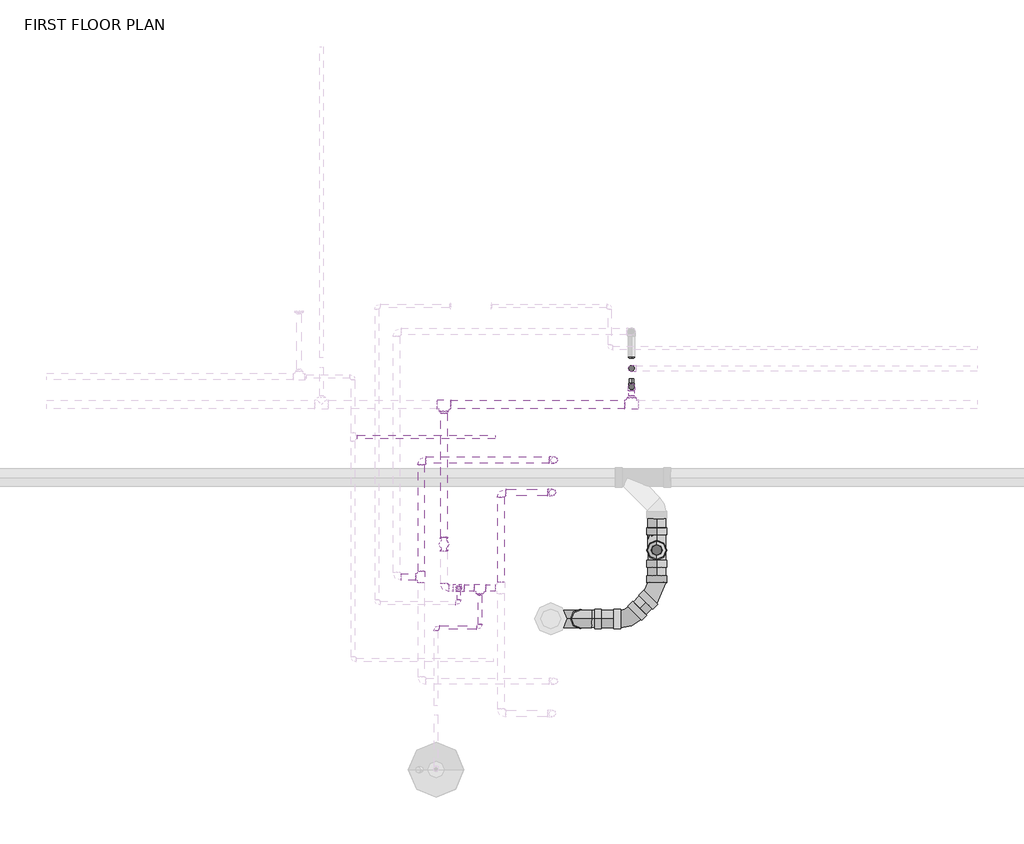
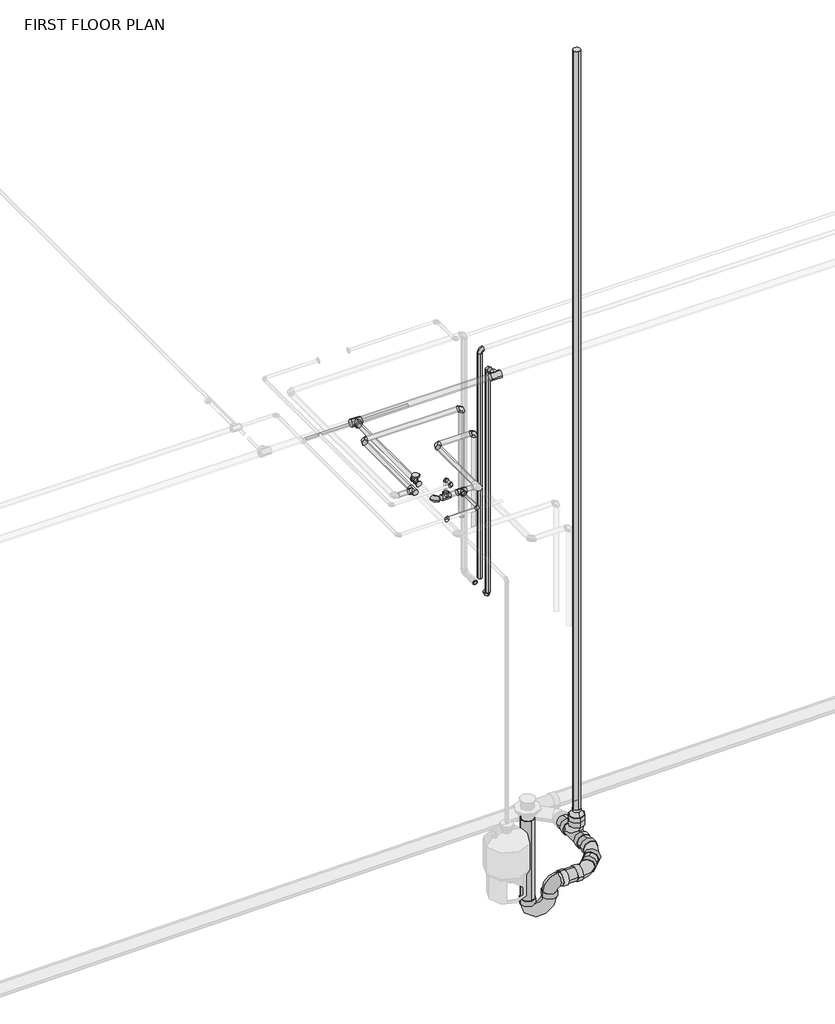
# One storey, part 4 of 9: 29 pipe fittings, 26 pipe segments, 1 valve.
"""IFC4 building model written with IfcOpenShell, lengths in millimetres."""

from ifc_helpers import new_model, si_unit, point, frame, frame_2d, origin, place, context, project, spatial, circle_curve, trimmed, segment, composite_curve, outline, extrude, transform, mapped, element, save
from ifc_brep_helpers import plane_surface, cylinder_surface, advanced_brep
from components import bend_pvc_sch_40_dwv_standard_17534dfd, bend_pvc_sch_40_dwv_standard_f8d707d2, pipe_elbow_copper_k_feaaf02c, pipe_elbow_copper_k_557be1fc, pipe_elbow_copper_k_a25a5501, pipe_elbow_copper_k_50f79be6, pipe_elbow_copper_k_aee2f062, pipe_elbow_copper_k_45e90dba, pipe_tee_copper_k_36278b8a, pipe_tee_copper_k_7127fd44, pipe_tee_copper_k_01efa584, pipe_transition_copper_k_d15df449, pipe_transition_copper_k_ab260ade, pipe_transition_copper_k_dc0697be, pipe_transition_copper_k_c08627ba, pipe_transition_copper_k_f0b34d0f, pipe_transition_copper_k_b05aebf9, pipe_transition_copper_k_af966018, reducer_pvc_sch_40_dwv_standard_49186a3e, standard_902986a4, tee_sanitary_pvc_sch_40_dwv_standard_0efe078d, valve_175674eb

model = new_model("IFC4")

# Units and contexts
model_context = context("Model", 3, world=origin())
ifc_project = project(units=[si_unit("LENGTHUNIT", "METRE", prefix="MILLI")], contexts=[model_context])

# Site, building, storey
site = spatial("IfcSite", under=ifc_project)
building = spatial("IfcBuilding", under=site)
storey = spatial("IfcBuildingStorey", under=building, Name="FIRST FLOOR PLAN", Elevation=0.0)

# Pipe fittings
placement = place(None, origin())
bend_pvc_sch_40_dwv_standard_shape = bend_pvc_sch_40_dwv_standard_17534dfd(model_context)
element("IfcPipeFitting", 1, ObjectType="Bend - PVC - Sch 40 - DWV : Standard", at=placement, inside=storey, context=model_context, shape_type="MappedRepresentation", body=[
    mapped(bend_pvc_sch_40_dwv_standard_shape, transform((-507.8003989, 4317.2683702, -829.7451851), x_axis=(-0.7070684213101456, -0.7070684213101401, 0.010416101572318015), y_axis=(0.7071451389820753, -0.7069917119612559, 0.010414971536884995), z_axis=(0.0, 0.014729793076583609, 0.9998915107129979))),
])
bend_pvc_sch_40_dwv_standard_2_shape = bend_pvc_sch_40_dwv_standard_f8d707d2(model_context)
element("IfcPipeFitting", 2, ObjectType="Bend - PVC - Sch 40 - DWV : Standard", at=placement, inside=storey, context=model_context, shape_type="MappedRepresentation", body=[
    mapped(bend_pvc_sch_40_dwv_standard_2_shape, transform((-329.1339965, 4495.9376807, -832.1563778), x_axis=(0.0, -0.9999132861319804, 0.013168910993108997), y_axis=(0.999998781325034, 2.055931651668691e-05, 0.0015610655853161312), z_axis=(-0.0015612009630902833, 0.013168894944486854, 0.9999120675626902))),
])
pipe_elbow_copper_k_shape = pipe_elbow_copper_k_feaaf02c(model_context)
element("IfcPipeFitting", 3, ObjectType="Pipe Elbow : Copper- K", at=placement, inside=storey, context=model_context, shape_type="MappedRepresentation", body=[
    mapped(pipe_elbow_copper_k_shape, transform((-1602.9878963, 4515.7105295, 3007.2210937), x_axis=(0.0, 0.0, 1.0), y_axis=(0.0, -1.0, 0.0), z_axis=(1.0, 0.0, 0.0))),
])
element("IfcPipeFitting", 4, ObjectType="Pipe Elbow : Copper- K", at=placement, inside=storey, context=model_context, shape_type="MappedRepresentation", body=[
    mapped(pipe_elbow_copper_k_shape, transform((-1602.9878963, 4419.3099803, 3007.2210938), x_axis=(1.0, 0.0, 0.0), y_axis=(0.0, 1.0, 0.0), z_axis=(0.0, 0.0, 1.0))),
])
element("IfcPipeFitting", 5, ObjectType="Pipe Elbow : Copper- K", at=placement, inside=storey, context=model_context, shape_type="MappedRepresentation", body=[
    mapped(pipe_elbow_copper_k_shape, transform((-1467.2772811, 4261.710529, 2847.578125), x_axis=(1.0, 0.0, 0.0), y_axis=(0.0, 1.0, 0.0), z_axis=(0.0, 0.0, 1.0))),
])
element("IfcPipeFitting", 6, ObjectType="Pipe Elbow : Copper- K", at=placement, inside=storey, context=model_context, shape_type="MappedRepresentation", body=[
    mapped(pipe_elbow_copper_k_shape, transform((-1749.0378963, 4261.710529, 2847.578125), x_axis=(-1.0, 0.0, 0.0), y_axis=(0.0, -1.0, 0.0), z_axis=(0.0, 0.0, 1.0))),
])
pipe_elbow_copper_k_2_shape = pipe_elbow_copper_k_557be1fc(model_context)
element("IfcPipeFitting", 7, ObjectType="Pipe Elbow : Copper- K", at=placement, inside=storey, context=model_context, shape_type="MappedRepresentation", body=[
    mapped(pipe_elbow_copper_k_2_shape, transform((-989.5398963, 5338.2774765, 2942.828125), x_axis=(0.0, 0.0, 1.0), y_axis=(-1.0, 0.0, 0.0), z_axis=(0.0, -1.0, 0.0))),
])
element("IfcPipeFitting", 8, ObjectType="Pipe Elbow : Copper- K", at=placement, inside=storey, context=model_context, shape_type="MappedRepresentation", body=[
    mapped(pipe_elbow_copper_k_2_shape, transform((-1331.5598228, 5130.2122305, 2847.5799344), x_axis=(-0.9999999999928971, 0.0, 3.769059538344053e-06), y_axis=(-1.0359240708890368e-10, -0.9999999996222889, -2.7484948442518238e-05), z_axis=(3.769059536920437e-06, -2.748494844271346e-05, 0.9999999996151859))),
])
element("IfcPipeFitting", 9, ObjectType="Pipe Elbow : Copper- K", at=placement, inside=storey, context=model_context, shape_type="MappedRepresentation", body=[
    mapped(pipe_elbow_copper_k_2_shape, transform((-1698.2378963, 4515.7105293, 2847.5491238), x_axis=(0.0, -0.9999999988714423, -4.750910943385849e-05), y_axis=(0.9999999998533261, -8.137078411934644e-10, 1.712740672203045e-05), z_axis=(-1.7127406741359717e-05, -4.750910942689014e-05, 0.9999999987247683))),
])
element("IfcPipeFitting", 10, ObjectType="Pipe Elbow : Copper- K", at=placement, inside=storey, context=model_context, shape_type="MappedRepresentation", body=[
    mapped(pipe_elbow_copper_k_2_shape, transform((-1844.2878963, 5338.2774765, 2942.828125), x_axis=(-1.0, 0.0, 0.0), y_axis=(0.0, -1.0, 0.0), z_axis=(0.0, 0.0, 1.0))),
])
pipe_elbow_copper_k_3_shape = pipe_elbow_copper_k_a25a5501(model_context)
element("IfcPipeFitting", 11, ObjectType="Pipe Elbow : Copper- K", at=placement, inside=storey, context=model_context, shape_type="MappedRepresentation", body=[
    mapped(pipe_elbow_copper_k_3_shape, transform((-491.4064749, 5810.9005555, 772.1506258), x_axis=(0.0, -1.0, 0.0), y_axis=(0.0, 0.0, 1.0), z_axis=(-1.0, 0.0, 0.0))),
])
pipe_elbow_copper_k_4_shape = pipe_elbow_copper_k_50f79be6(model_context)
element("IfcPipeFitting", 12, ObjectType="Pipe Elbow : Copper- K", at=placement, inside=storey, context=model_context, shape_type="MappedRepresentation", body=[
    mapped(pipe_elbow_copper_k_4_shape, transform((-1001.3598228, 5130.2122306, 2847.5785183), x_axis=(0.0, 0.0, 1.0), y_axis=(-1.0, 0.0, 0.0), z_axis=(0.0, -1.0, 0.0))),
])
pipe_elbow_copper_k_5_shape = pipe_elbow_copper_k_aee2f062(model_context)
element("IfcPipeFitting", 13, ObjectType="Pipe Elbow : Copper- K", at=placement, inside=storey, context=model_context, shape_type="MappedRepresentation", body=[
    mapped(pipe_elbow_copper_k_5_shape, transform((-491.4064749, 5928.9468422, 2942.828125), x_axis=(0.0, 0.0, 1.0), y_axis=(1.0, 0.0, 0.0), z_axis=(0.0, 1.0, 0.0))),
])
pipe_elbow_copper_k_6_shape = pipe_elbow_copper_k_45e90dba(model_context)
element("IfcPipeFitting", 14, ObjectType="Pipe Elbow : Copper- K", at=placement, inside=storey, context=model_context, shape_type="MappedRepresentation", body=[
    mapped(pipe_elbow_copper_k_6_shape, transform((-491.4064749, 5810.9005555, 2847.5990566), x_axis=(0.0, 0.0, 1.0), y_axis=(0.0, -1.0, 0.0), z_axis=(1.0, 0.0, 0.0))),
])
pipe_tee_copper_k_shape = pipe_tee_copper_k_36278b8a(model_context)
element("IfcPipeFitting", 15, ObjectType="Pipe Tee : Copper- K", at=placement, inside=storey, context=model_context, shape_type="MappedRepresentation", body=[
    mapped(pipe_tee_copper_k_shape, transform((-491.4064749, 5696.5205406, 2847.5440079), x_axis=(1.0, 0.0, 0.0), y_axis=(0.0, -0.9999999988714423, -4.7509109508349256e-05), z_axis=(0.0, 4.7509109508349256e-05, -0.9999999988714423))),
])
element("IfcPipeFitting", 16, ObjectType="Pipe Tee : Copper- K", at=placement, inside=storey, context=model_context, shape_type="MappedRepresentation", body=[
    mapped(pipe_tee_copper_k_shape, transform((-1698.2378963, 5696.5205406, 2847.5440079), x_axis=(1.0, 0.0, 0.0), y_axis=(0.0, 0.9999999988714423, 4.7509109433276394e-05), z_axis=(0.0, -4.7509109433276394e-05, 0.9999999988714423))),
])
pipe_tee_copper_k_2_shape = pipe_tee_copper_k_7127fd44(model_context)
element("IfcPipeFitting", 17, ObjectType="Pipe Tee : Copper- K", at=placement, inside=storey, context=model_context, shape_type="MappedRepresentation", body=[
    mapped(pipe_tee_copper_k_2_shape, transform((-1844.2878963, 4586.9377286, 2942.828125), x_axis=(0.0, 1.0, 0.0), y_axis=(1.0, 0.0, 0.0), z_axis=(0.0, 0.0, -1.0))),
])
element("IfcPipeFitting", 18, ObjectType="Pipe Tee : Copper- K", at=placement, inside=storey, context=model_context, shape_type="MappedRepresentation", body=[
    mapped(pipe_tee_copper_k_2_shape, transform((-1467.2772811, 4515.7105286, 2847.5705339), x_axis=(-0.9999999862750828, 0.0, -0.0001656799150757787), y_axis=(0.0, 1.0, 0.0), z_axis=(0.0001656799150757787, 0.0, -0.9999999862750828))),
])
pipe_tee_copper_k_3_shape = pipe_tee_copper_k_01efa584(model_context)
element("IfcPipeFitting", 19, ObjectType="Pipe Tee : Copper- K", at=placement, inside=storey, context=model_context, shape_type="MappedRepresentation", body=[
    mapped(pipe_tee_copper_k_3_shape, transform((-1602.9878963, 4515.7105295, 2847.5523692), x_axis=(0.9999999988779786, 0.0, 4.737132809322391e-05), y_axis=(4.737132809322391e-05, 0.0, -0.9999999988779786), z_axis=(0.0, 1.0, 0.0))),
])
pipe_transition_copper_k_shape = pipe_transition_copper_k_d15df449(model_context)
element("IfcPipeFitting", 20, ObjectType="Pipe Transition : Copper- K", at=placement, inside=storey, context=model_context, shape_type="MappedRepresentation", body=[
    mapped(pipe_transition_copper_k_shape, transform((-1602.9878963, 4515.7105295, 2884.0648692), x_axis=(0.0, 0.0, 1.0), y_axis=(1.0, 0.0, 0.0), z_axis=(0.0, 1.0, 0.0))),
])
pipe_transition_copper_k_2_shape = pipe_transition_copper_k_ab260ade(model_context)
element("IfcPipeFitting", 21, ObjectType="Pipe Transition : Copper- K", at=placement, inside=storey, context=model_context, shape_type="MappedRepresentation", body=[
    mapped(pipe_transition_copper_k_2_shape, transform((-1698.2378963, 5653.6580406, 2847.5419715), x_axis=(0.0, -0.9999999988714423, -4.7509109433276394e-05), y_axis=(1.0, 0.0, 0.0), z_axis=(0.0, -4.7509109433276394e-05, 0.9999999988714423))),
])
pipe_transition_copper_k_3_shape = pipe_transition_copper_k_dc0697be(model_context)
element("IfcPipeFitting", 22, ObjectType="Pipe Transition : Copper- K", at=placement, inside=storey, context=model_context, shape_type="MappedRepresentation", body=[
    mapped(pipe_transition_copper_k_3_shape, transform((-491.4064749, 5739.3830405, 2847.5460443), x_axis=(0.0, 0.9999999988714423, 4.7509109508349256e-05), y_axis=(-1.0, 0.0, 0.0), z_axis=(0.0, -4.7509109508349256e-05, 0.9999999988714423))),
])
pipe_transition_copper_k_4_shape = pipe_transition_copper_k_c08627ba(model_context)
element("IfcPipeFitting", 23, ObjectType="Pipe Transition : Copper- K", at=placement, inside=storey, context=model_context, shape_type="MappedRepresentation", body=[
    mapped(pipe_transition_copper_k_4_shape, transform((-491.4064749, 5810.9005555, 795.9631258), x_axis=(0.0, 0.0, 1.0), y_axis=(1.0, 0.0, 0.0), z_axis=(0.0, 1.0, 0.0))),
])
pipe_transition_copper_k_5_shape = pipe_transition_copper_k_f0b34d0f(model_context)
element("IfcPipeFitting", 24, ObjectType="Pipe Transition : Copper- K", at=placement, inside=storey, context=model_context, shape_type="MappedRepresentation", body=[
    mapped(pipe_transition_copper_k_5_shape, transform((-491.4064749, 5928.9468422, 855.8182258), x_axis=(0.0, 0.0, 1.0), y_axis=(-1.0, 0.0, 0.0), z_axis=(0.0, -1.0, 0.0))),
])
pipe_transition_copper_k_6_shape = pipe_transition_copper_k_b05aebf9(model_context)
element("IfcPipeFitting", 25, ObjectType="Pipe Transition : Copper- K", at=placement, inside=storey, context=model_context, shape_type="MappedRepresentation", body=[
    mapped(pipe_transition_copper_k_6_shape, transform((-1467.2772811, 4479.1980286, 2847.5705339), x_axis=(0.0, -1.0, 0.0), y_axis=(0.9999999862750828, 0.0, 0.00016567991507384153), z_axis=(-0.00016567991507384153, 0.0, 0.9999999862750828))),
])
pipe_transition_copper_k_7_shape = pipe_transition_copper_k_af966018(model_context)
element("IfcPipeFitting", 26, ObjectType="Pipe Transition : Copper- K", at=placement, inside=storey, context=model_context, shape_type="MappedRepresentation", body=[
    mapped(pipe_transition_copper_k_7_shape, transform((-491.4064749, 5994.6058422, 772.1506258), x_axis=(0.0, 1.0, 0.0), y_axis=(-1.0, 0.0, 0.0), z_axis=(0.0, 0.0, 1.0))),
])
reducer_pvc_sch_40_dwv_standard_shape = reducer_pvc_sch_40_dwv_standard_49186a3e(model_context)
element("IfcPipeFitting", 27, ObjectType="Reducer - PVC - Sch 40 - DWV : Standard", at=placement, inside=storey, context=model_context, shape_type="MappedRepresentation", body=[
    mapped(reducer_pvc_sch_40_dwv_standard_shape, transform((-329.1339965, 4759.9014199, -692.6982894), x_axis=(0.0, 0.0, 1.0), y_axis=(0.0, 1.0, 0.0), z_axis=(-1.0, 0.0, 0.0))),
])
standard_shape = standard_902986a4(model_context)
element("IfcPipeFitting", 28, ObjectType="GES P TRAP PVC Sch 40 - DWV : Standard", at=placement, inside=storey, context=model_context, shape_type="MappedRepresentation", body=[
    mapped(standard_shape, transform((-1010.3942675, 4317.2683702, -829.7451851), x_axis=(0.0, 0.0, -1.0), y_axis=(-1.0, 0.0, 0.0), z_axis=(0.0, 1.0, 0.0))),
])
tee_sanitary_pvc_sch_40_dwv_standard_shape = tee_sanitary_pvc_sch_40_dwv_standard_0efe078d(model_context)
element("IfcPipeFitting", 29, ObjectType="Tee Sanitary - PVC - Sch 40 - DWV : Standard", at=placement, inside=storey, context=model_context, shape_type="MappedRepresentation", body=[
    mapped(tee_sanitary_pvc_sch_40_dwv_standard_shape, transform((-329.1339965, 4759.9014199, -835.5732894), x_axis=(0.0, -0.9999202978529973, 0.012625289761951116), y_axis=(0.0, 0.012625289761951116, 0.9999202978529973), z_axis=(-1.0, 0.0, 0.0))),
])

# Pipe segments
element("IfcPipeSegment", 30, ObjectType="Cast Iron - VENT", at=placement, inside=storey, context=model_context, shape_type="SweptSolid", body=[
    extrude(outline(composite_curve([segment(trimmed(circle_curve(frame_2d((0.0, 30.1625)), 30.1625), [point((-30.1625, 30.1625))], [point((0.0, 60.325))], False, "CARTESIAN"), True, "CONTINUOUS"), segment(trimmed(circle_curve(frame_2d((0.0, 30.1625)), 30.1625), [point((0.0, 60.325))], [point((30.1625, 30.1625))], False, "CARTESIAN"), True, "CONTINUOUS"), segment(trimmed(circle_curve(frame_2d((0.0, 30.1625)), 30.1625), [point((30.1625, 30.1625))], [point((0.0, 0.0))], False, "CARTESIAN"), True, "CONTINUOUS"), segment(trimmed(circle_curve(frame_2d((0.0, 30.1625)), 30.1625), [point((0.0, 0.0))], [point((-30.1625, 30.1625))], False, "CARTESIAN"), True, "CONTINUOUS")], self_intersect=False)), frame((-329.1339965, 4729.7389199, -594.2733702), z_axis=(-6.942765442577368e-07, -2.6780659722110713e-06, 0.999999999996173), x_axis=(0.999999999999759, -1.8598456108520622e-12, 6.942765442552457e-07)), (0.0, 0.0, 1.0), 6929.0194654),
])
element("IfcPipeSegment", 31, ObjectType="Copper", at=placement, inside=storey, context=model_context, shape_type="SweptSolid", body=[
    extrude(outline(composite_curve([segment(trimmed(circle_curve(frame_2d((-989.5398963, 5338.2774765)), 20.6375), [point((-1010.1773963, 5338.2774765))], [point((-989.5398963, 5358.9149765))], False, "CARTESIAN"), True, "CONTINUOUS"), segment(trimmed(circle_curve(frame_2d((-989.5398963, 5338.2774765)), 20.6375), [point((-989.5398963, 5358.9149765))], [point((-968.9023963, 5338.2774765))], False, "CARTESIAN"), True, "CONTINUOUS"), segment(trimmed(circle_curve(frame_2d((-989.5398963, 5338.2774765)), 20.6375), [point((-968.9023963, 5338.2774765))], [point((-989.5398963, 5317.6399765))], False, "CARTESIAN"), True, "CONTINUOUS"), segment(trimmed(circle_curve(frame_2d((-989.5398963, 5338.2774765)), 20.6375), [point((-989.5398963, 5317.6399765))], [point((-1010.1773963, 5338.2774765))], False, "CARTESIAN"), True, "CONTINUOUS")], self_intersect=False)), frame((0.0, 0.0, 1952.228125), z_axis=(0.0, 0.0, 1.0), x_axis=(1.0, 0.0, 0.0)), (0.0, 0.0, 1.0), 960.4375),
])
element("IfcPipeSegment", 32, ObjectType="Copper", at=placement, inside=storey, context=model_context, shape_type="SweptSolid", body=[
    extrude(outline(composite_curve([segment(trimmed(circle_curve(frame_2d((5338.2774765, 2942.828125)), 20.6375), [point((5358.9149765, 2942.828125))], [point((5338.2774765, 2922.190625))], False, "CARTESIAN"), True, "CONTINUOUS"), segment(trimmed(circle_curve(frame_2d((5338.2774765, 2942.828125)), 20.6375), [point((5338.2774765, 2922.190625))], [point((5317.6399765, 2942.828125))], False, "CARTESIAN"), True, "CONTINUOUS"), segment(trimmed(circle_curve(frame_2d((5338.2774765, 2942.828125)), 20.6375), [point((5317.6399765, 2942.828125))], [point((5338.2774765, 2963.465625))], False, "CARTESIAN"), True, "CONTINUOUS"), segment(trimmed(circle_curve(frame_2d((5338.2774765, 2942.828125)), 20.6375), [point((5338.2774765, 2963.465625))], [point((5358.9149765, 2942.828125))], False, "CARTESIAN"), True, "CONTINUOUS")], self_intersect=False)), frame((-1814.1253963, 0.0, 0.0), z_axis=(1.0, 0.0, 0.0), x_axis=(0.0, 1.0, 0.0)), (0.0, 0.0, 1.0), 794.423),
])
element("IfcPipeSegment", 33, ObjectType="Copper", at=placement, inside=storey, context=model_context, shape_type="SweptSolid", body=[
    extrude(outline(composite_curve([segment(trimmed(circle_curve(frame_2d((5130.2122306, 2847.5788036)), 20.6375), [point((5150.8497305, 2847.5788036))], [point((5130.2122305, 2826.9413036))], False, "CARTESIAN"), True, "CONTINUOUS"), segment(trimmed(circle_curve(frame_2d((5130.2122306, 2847.5788036)), 20.6375), [point((5130.2122305, 2826.9413036))], [point((5109.5747305, 2847.5788036))], False, "CARTESIAN"), True, "CONTINUOUS"), segment(trimmed(circle_curve(frame_2d((5130.2122306, 2847.5788036)), 20.6375), [point((5109.5747305, 2847.5788036))], [point((5130.2122305, 2868.2163036))], False, "CARTESIAN"), True, "CONTINUOUS"), segment(trimmed(circle_curve(frame_2d((5130.2122306, 2847.5788036)), 20.6375), [point((5130.2122305, 2868.2163036))], [point((5150.8497305, 2847.5788036))], False, "CARTESIAN"), True, "CONTINUOUS")], self_intersect=False)), frame((-1301.3973228, 0.0, 0.0), z_axis=(1.0, 0.0, 0.0), x_axis=(0.0, 1.0, 0.0)), (0.0, 0.0, 1.0), 269.8752853),
])
element("IfcPipeSegment", 34, ObjectType="Copper", at=placement, inside=storey, context=model_context, shape_type="SweptSolid", body=[
    extrude(outline(composite_curve([segment(trimmed(circle_curve(frame_2d((-1001.3598228, 5130.2122306)), 20.6375), [point((-980.7223228, 5130.2122306))], [point((-1001.3598228, 5109.5747306))], False, "CARTESIAN"), True, "CONTINUOUS"), segment(trimmed(circle_curve(frame_2d((-1001.3598228, 5130.2122306)), 20.6375), [point((-1001.3598228, 5109.5747306))], [point((-1021.9973228, 5130.2122306))], False, "CARTESIAN"), True, "CONTINUOUS"), segment(trimmed(circle_curve(frame_2d((-1001.3598228, 5130.2122306)), 20.6375), [point((-1021.9973228, 5130.2122306))], [point((-1001.3598228, 5150.8497306))], False, "CARTESIAN"), True, "CONTINUOUS"), segment(trimmed(circle_curve(frame_2d((-1001.3598228, 5130.2122306)), 20.6375), [point((-1001.3598228, 5150.8497306))], [point((-980.7223228, 5130.2122306))], False, "CARTESIAN"), True, "CONTINUOUS")], self_intersect=False)), frame((0.0, 0.0, 1952.228125), z_axis=(0.0, 0.0, 1.0), x_axis=(1.0, 0.0, 0.0)), (0.0, 0.0, 1.0), 865.1881786),
])
element("IfcPipeSegment", 35, ObjectType="Copper", at=placement, inside=storey, context=model_context, shape_type="SweptSolid", body=[
    extrude(outline(composite_curve([segment(trimmed(circle_curve(frame_2d((2847.5963, -491.4064749)), 17.4625), [point((2847.5963, -473.9439749))], [point((2865.0588, -491.4064749))], False, "CARTESIAN"), True, "CONTINUOUS"), segment(trimmed(circle_curve(frame_2d((2847.5963, -491.4064749)), 17.4625), [point((2865.0588, -491.4064749))], [point((2847.5963, -508.8689749))], False, "CARTESIAN"), True, "CONTINUOUS"), segment(trimmed(circle_curve(frame_2d((2847.5963, -491.4064749)), 17.4625), [point((2847.5963, -508.8689749))], [point((2830.1338, -491.4064749))], False, "CARTESIAN"), True, "CONTINUOUS"), segment(trimmed(circle_curve(frame_2d((2847.5963, -491.4064749)), 17.4625), [point((2830.1338, -491.4064749))], [point((2847.5963, -473.9439749))], False, "CARTESIAN"), True, "CONTINUOUS")], self_intersect=False)), frame((0.0, 5752.8767882, 0.0), z_axis=(0.0, 1.0, 0.0), x_axis=(0.0, 0.0, 1.0)), (0.0, 0.0, 1.0), 31.0349852),
])
element("IfcPipeSegment", 36, ObjectType="Copper", at=placement, inside=storey, context=model_context, shape_type="SweptSolid", body=[
    extrude(outline(composite_curve([segment(trimmed(circle_curve(frame_2d((5488.2979913, 3007.8164062)), 11.1125), [point((5477.1854913, 3007.8164062))], [point((5488.2979913, 3018.9289062))], False, "CARTESIAN"), True, "CONTINUOUS"), segment(trimmed(circle_curve(frame_2d((5488.2979913, 3007.8164062)), 11.1125), [point((5488.2979913, 3018.9289062))], [point((5499.4104913, 3007.8164062))], False, "CARTESIAN"), True, "CONTINUOUS"), segment(trimmed(circle_curve(frame_2d((5488.2979913, 3007.8164062)), 11.1125), [point((5499.4104913, 3007.8164062))], [point((5488.2979913, 2996.7039062))], False, "CARTESIAN"), True, "CONTINUOUS"), segment(trimmed(circle_curve(frame_2d((5488.2979913, 3007.8164062)), 11.1125), [point((5488.2979913, 2996.7039062))], [point((5477.1854913, 3007.8164062))], False, "CARTESIAN"), True, "CONTINUOUS")], self_intersect=False)), frame((-2255.4503963, 0.0, 0.0), z_axis=(1.0, 0.0, 0.0), x_axis=(0.0, 1.0, 0.0)), (0.0, 0.0, 1.0), 887.4125),
])
element("IfcPipeSegment", 37, ObjectType="Copper", at=placement, inside=storey, context=model_context, shape_type="SweptSolid", body=[
    extrude(outline(composite_curve([segment(trimmed(circle_curve(frame_2d((772.1506258, -491.4064749)), 14.2875), [point((772.1506258, -505.6939749))], [point((757.8631258, -491.4064749))], False, "CARTESIAN"), True, "CONTINUOUS"), segment(trimmed(circle_curve(frame_2d((772.1506258, -491.4064749)), 14.2875), [point((757.8631258, -491.4064749))], [point((772.1506258, -477.1189749))], False, "CARTESIAN"), True, "CONTINUOUS"), segment(trimmed(circle_curve(frame_2d((772.1506258, -491.4064749)), 14.2875), [point((772.1506258, -477.1189749))], [point((786.4381258, -491.4064749))], False, "CARTESIAN"), True, "CONTINUOUS"), segment(trimmed(circle_curve(frame_2d((772.1506258, -491.4064749)), 14.2875), [point((786.4381258, -491.4064749))], [point((772.1506258, -505.6939749))], False, "CARTESIAN"), True, "CONTINUOUS")], self_intersect=False)), frame((0.0, 5834.7130555, 0.0), z_axis=(0.0, 1.0, 0.0), x_axis=(0.0, 0.0, 1.0)), (0.0, 0.0, 1.0), 28.5747866),
])
element("IfcPipeSegment", 38, ObjectType="Copper", at=placement, inside=storey, context=model_context, shape_type="SweptSolid", body=[
    extrude(outline(composite_curve([segment(trimmed(circle_curve(frame_2d((-491.4064749, 5810.9005555)), 17.4625), [point((-508.8689749, 5810.9005555))], [point((-491.4064749, 5828.3630555))], False, "CARTESIAN"), True, "CONTINUOUS"), segment(trimmed(circle_curve(frame_2d((-491.4064749, 5810.9005555)), 17.4625), [point((-491.4064749, 5828.3630555))], [point((-473.9439749, 5810.9005555))], False, "CARTESIAN"), True, "CONTINUOUS"), segment(trimmed(circle_curve(frame_2d((-491.4064749, 5810.9005555)), 17.4625), [point((-473.9439749, 5810.9005555))], [point((-491.4064749, 5793.4380555))], False, "CARTESIAN"), True, "CONTINUOUS"), segment(trimmed(circle_curve(frame_2d((-491.4064749, 5810.9005555)), 17.4625), [point((-491.4064749, 5793.4380555))], [point((-508.8689749, 5810.9005555))], False, "CARTESIAN"), True, "CONTINUOUS")], self_intersect=False)), frame((0.0, 0.0, 800.3287508), z_axis=(0.0, 0.0, 1.0), x_axis=(1.0, 0.0, 0.0)), (0.0, 0.0, 1.0), 2020.2815236),
])
element("IfcPipeSegment", 39, ObjectType="Copper", at=placement, inside=storey, context=model_context, shape_type="SweptSolid", body=[
    extrude(outline(composite_curve([segment(trimmed(circle_curve(frame_2d((-491.4064749, 5928.9468422)), 17.4625), [point((-508.8689749, 5928.9468422))], [point((-491.4064749, 5946.4093422))], False, "CARTESIAN"), True, "CONTINUOUS"), segment(trimmed(circle_curve(frame_2d((-491.4064749, 5928.9468422)), 17.4625), [point((-491.4064749, 5946.4093422))], [point((-473.9439749, 5928.9468422))], False, "CARTESIAN"), True, "CONTINUOUS"), segment(trimmed(circle_curve(frame_2d((-491.4064749, 5928.9468422)), 17.4625), [point((-473.9439749, 5928.9468422))], [point((-491.4064749, 5911.4843422))], False, "CARTESIAN"), True, "CONTINUOUS"), segment(trimmed(circle_curve(frame_2d((-491.4064749, 5928.9468422)), 17.4625), [point((-491.4064749, 5911.4843422))], [point((-508.8689749, 5928.9468422))], False, "CARTESIAN"), True, "CONTINUOUS")], self_intersect=False)), frame((0.0, 0.0, 860.1838508), z_axis=(0.0, 0.0, 1.0), x_axis=(1.0, 0.0, 0.0)), (0.0, 0.0, 1.0), 2055.6567742),
])
element("IfcPipeSegment", 40, ObjectType="Copper", at=placement, inside=storey, context=model_context, shape_type="SweptSolid", body=[
    extrude(outline(composite_curve([segment(trimmed(circle_curve(frame_2d((5696.5205406, 2847.5440079)), 26.9875), [point((5723.5080406, 2847.5440079))], [point((5696.5205406, 2820.5565079))], False, "CARTESIAN"), True, "CONTINUOUS"), segment(trimmed(circle_curve(frame_2d((5696.5205406, 2847.5440079)), 26.9875), [point((5696.5205406, 2820.5565079))], [point((5669.5330406, 2847.5440079))], False, "CARTESIAN"), True, "CONTINUOUS"), segment(trimmed(circle_curve(frame_2d((5696.5205406, 2847.5440079)), 26.9875), [point((5669.5330406, 2847.5440079))], [point((5696.5205406, 2874.5315079))], False, "CARTESIAN"), True, "CONTINUOUS"), segment(trimmed(circle_curve(frame_2d((5696.5205406, 2847.5440079)), 26.9875), [point((5696.5205406, 2874.5315079))], [point((5723.5080406, 2847.5440079))], False, "CARTESIAN"), True, "CONTINUOUS")], self_intersect=False)), frame((-1655.3753963, 0.0, 0.0), z_axis=(1.0, 0.0, 0.0), x_axis=(0.0, 1.0, 0.0)), (0.0, 0.0, 1.0), 1121.1064214),
])
element("IfcPipeSegment", 41, ObjectType="Copper", at=placement, inside=storey, context=model_context, shape_type="SweptSolid", body=[
    extrude(outline(composite_curve([segment(trimmed(circle_curve(frame_2d((0.0, -20.6375)), 20.6375), [point((0.0, 0.0))], [point((20.6375, -20.6375))], False, "CARTESIAN"), True, "CONTINUOUS"), segment(trimmed(circle_curve(frame_2d((0.0, -20.6375)), 20.6375), [point((20.6375, -20.6375))], [point((0.0, -41.275))], False, "CARTESIAN"), True, "CONTINUOUS"), segment(trimmed(circle_curve(frame_2d((0.0, -20.6375)), 20.6375), [point((0.0, -41.275))], [point((-20.6375, -20.6375))], False, "CARTESIAN"), True, "CONTINUOUS"), segment(trimmed(circle_curve(frame_2d((0.0, -20.6375)), 20.6375), [point((-20.6375, -20.6375))], [point((0.0, 0.0))], False, "CARTESIAN"), True, "CONTINUOUS")], self_intersect=False)), frame((-1352.1973228, 4552.2230293, 2847.563028), z_axis=(0.0, 0.9999999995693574, 2.934766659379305e-05), x_axis=(0.0, 2.934766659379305e-05, -0.9999999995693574)), (0.0, 0.0, 1.0), 547.8267015),
])
element("IfcPipeSegment", 42, ObjectType="Copper", at=placement, inside=storey, context=model_context, shape_type="SweptSolid", body=[
    extrude(outline(composite_curve([segment(trimmed(circle_curve(frame_2d((3007.2210938, -1602.9878963)), 11.1125), [point((3007.2210938, -1614.1003963))], [point((2996.1085938, -1602.9878963))], False, "CARTESIAN"), True, "CONTINUOUS"), segment(trimmed(circle_curve(frame_2d((3007.2210938, -1602.9878963)), 11.1125), [point((2996.1085938, -1602.9878963))], [point((3007.2210938, -1591.8753963))], False, "CARTESIAN"), True, "CONTINUOUS"), segment(trimmed(circle_curve(frame_2d((3007.2210938, -1602.9878963)), 11.1125), [point((3007.2210938, -1591.8753963))], [point((3018.3335938, -1602.9878963))], False, "CARTESIAN"), True, "CONTINUOUS"), segment(trimmed(circle_curve(frame_2d((3007.2210938, -1602.9878963)), 11.1125), [point((3018.3335938, -1602.9878963))], [point((3007.2210938, -1614.1003963))], False, "CARTESIAN"), True, "CONTINUOUS")], self_intersect=False)), frame((0.0, 4439.9474803, 0.0), z_axis=(0.0, 1.0, 0.0), x_axis=(0.0, 0.0, 1.0)), (0.0, 0.0, 1.0), 55.1255491),
])
element("IfcPipeSegment", 43, ObjectType="Copper", at=placement, inside=storey, context=model_context, shape_type="SweptSolid", body=[
    extrude(outline(composite_curve([segment(trimmed(circle_curve(frame_2d((-1602.9878963, 4515.7105295)), 11.1125), [point((-1614.1003963, 4515.7105295))], [point((-1602.9878963, 4526.8230295))], False, "CARTESIAN"), True, "CONTINUOUS"), segment(trimmed(circle_curve(frame_2d((-1602.9878963, 4515.7105295)), 11.1125), [point((-1602.9878963, 4526.8230295))], [point((-1591.8753963, 4515.7105295))], False, "CARTESIAN"), True, "CONTINUOUS"), segment(trimmed(circle_curve(frame_2d((-1602.9878963, 4515.7105295)), 11.1125), [point((-1591.8753963, 4515.7105295))], [point((-1602.9878963, 4504.5980295))], False, "CARTESIAN"), True, "CONTINUOUS"), segment(trimmed(circle_curve(frame_2d((-1602.9878963, 4515.7105295)), 11.1125), [point((-1602.9878963, 4504.5980295))], [point((-1614.1003963, 4515.7105295))], False, "CARTESIAN"), True, "CONTINUOUS")], self_intersect=False)), frame((0.0, 0.0, 2894.3836192), z_axis=(0.0, 0.0, 1.0), x_axis=(1.0, 0.0, 0.0)), (0.0, 0.0, 1.0), 92.1999746),
])
element("IfcPipeSegment", 44, ObjectType="Copper", at=placement, inside=storey, context=model_context, shape_type="SweptSolid", body=[
    extrude(outline(composite_curve([segment(trimmed(circle_curve(frame_2d((0.0, -20.6375)), 20.6375), [point((-20.6375, -20.6375))], [point((0.0, 0.0))], False, "CARTESIAN"), True, "CONTINUOUS"), segment(trimmed(circle_curve(frame_2d((0.0, -20.6375)), 20.6375), [point((0.0, 0.0))], [point((20.6375, -20.6375))], False, "CARTESIAN"), True, "CONTINUOUS"), segment(trimmed(circle_curve(frame_2d((0.0, -20.6375)), 20.6375), [point((20.6375, -20.6375))], [point((0.0, -41.275))], False, "CARTESIAN"), True, "CONTINUOUS"), segment(trimmed(circle_curve(frame_2d((0.0, -20.6375)), 20.6375), [point((0.0, -41.275))], [point((-20.6375, -20.6375))], False, "CARTESIAN"), True, "CONTINUOUS")], self_intersect=False)), frame((-1566.4719771, 4515.7105295, 2826.9165991), z_axis=(0.9999999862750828, -1.4381814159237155e-08, 0.00016567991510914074), x_axis=(-1.4381813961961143e-08, -1.0, -2.382094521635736e-12)), (0.0, 0.0, 1.0), 62.6856166),
])
element("IfcPipeSegment", 45, ObjectType="Copper", at=placement, inside=storey, context=model_context, shape_type="SweptSolid", body=[
    extrude(outline(composite_curve([segment(trimmed(circle_curve(frame_2d((4586.9377286, 2942.828125)), 20.6375), [point((4607.5752286, 2942.828125))], [point((4586.9377286, 2922.190625))], False, "CARTESIAN"), True, "CONTINUOUS"), segment(trimmed(circle_curve(frame_2d((4586.9377286, 2942.828125)), 20.6375), [point((4586.9377286, 2922.190625))], [point((4566.3002286, 2942.828125))], False, "CARTESIAN"), True, "CONTINUOUS"), segment(trimmed(circle_curve(frame_2d((4586.9377286, 2942.828125)), 20.6375), [point((4566.3002286, 2942.828125))], [point((4586.9377286, 2963.465625))], False, "CARTESIAN"), True, "CONTINUOUS"), segment(trimmed(circle_curve(frame_2d((4586.9377286, 2942.828125)), 20.6375), [point((4586.9377286, 2963.465625))], [point((4607.5752286, 2942.828125))], False, "CARTESIAN"), True, "CONTINUOUS")], self_intersect=False)), frame((-1972.8753963, 0.0, 0.0), z_axis=(1.0, 0.0, 0.0), x_axis=(0.0, 1.0, 0.0)), (0.0, 0.0, 1.0), 92.075),
])
element("IfcPipeSegment", 46, ObjectType="Copper", at=placement, inside=storey, context=model_context, shape_type="SweptSolid", body=[
    extrude(outline(composite_curve([segment(trimmed(circle_curve(frame_2d((2942.828125, -1844.2878963)), 20.6375), [point((2942.828125, -1864.9253963))], [point((2922.190625, -1844.2878963))], False, "CARTESIAN"), True, "CONTINUOUS"), segment(trimmed(circle_curve(frame_2d((2942.828125, -1844.2878963)), 20.6375), [point((2922.190625, -1844.2878963))], [point((2942.828125, -1823.6503963))], False, "CARTESIAN"), True, "CONTINUOUS"), segment(trimmed(circle_curve(frame_2d((2942.828125, -1844.2878963)), 20.6375), [point((2942.828125, -1823.6503963))], [point((2963.465625, -1844.2878963))], False, "CARTESIAN"), True, "CONTINUOUS"), segment(trimmed(circle_curve(frame_2d((2942.828125, -1844.2878963)), 20.6375), [point((2963.465625, -1844.2878963))], [point((2942.828125, -1864.9253963))], False, "CARTESIAN"), True, "CONTINUOUS")], self_intersect=False)), frame((0.0, 4623.4502286, 0.0), z_axis=(0.0, 1.0, 0.0), x_axis=(0.0, 0.0, 1.0)), (0.0, 0.0, 1.0), 684.6647479),
])
element("IfcPipeSegment", 47, ObjectType="Copper", at=placement, inside=storey, context=model_context, shape_type="SweptSolid", body=[
    extrude(outline(composite_curve([segment(trimmed(circle_curve(frame_2d((0.0, -20.6375)), 20.6375), [point((0.0, 0.0))], [point((20.6374999, -20.6375))], False, "CARTESIAN"), True, "CONTINUOUS"), segment(trimmed(circle_curve(frame_2d((0.0, -20.6375)), 20.6375), [point((20.6374999, -20.6375))], [point((0.0, -41.275))], False, "CARTESIAN"), True, "CONTINUOUS"), segment(trimmed(circle_curve(frame_2d((0.0, -20.6375)), 20.6375), [point((0.0, -41.275))], [point((-20.6375, -20.6375))], False, "CARTESIAN"), True, "CONTINUOUS"), segment(trimmed(circle_curve(frame_2d((0.0, -20.6375)), 20.6375), [point((-20.6375, -20.6375))], [point((0.0, 0.0))], False, "CARTESIAN"), True, "CONTINUOUS")], self_intersect=False)), frame((-1718.8753963, 4843.2285178, 2847.5651795), z_axis=(0.0, 0.9999999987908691, 4.917582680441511e-05), x_axis=(0.0, 4.917582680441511e-05, -0.9999999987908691)), (0.0, 0.0, 1.0), 796.9357709),
])
element("IfcPipeSegment", 48, ObjectType="Copper", at=placement, inside=storey, context=model_context, shape_type="AdvancedBrep", body=[
    advanced_brep(
    [(-1478.3897824, 4468.8792785, 2847.578125), (-1467.2772824, 4468.8792786, 2858.690625), (-1456.1647824, 4468.8792786, 2847.578125), (-1467.2772824, 4468.8792786, 2836.465625), (-1478.3897811, 4282.3480289, 2847.578125), (-1467.2772811, 4282.348029, 2836.465625), (-1456.1647811, 4282.3480291, 2847.578125), (-1467.2772811, 4282.348029, 2858.690625)],
    [
        (0, 1, circle_curve(frame((-1467.2772824, 4468.8792785, 2847.578125), z_axis=(0.0, 1.0, 0.0), x_axis=(-1.0, 0.0, 0.0)), 11.1125)),
        (1, 2, circle_curve(frame((-1467.2772824, 4468.8792786, 2847.578125), z_axis=(0.0, 1.0, 0.0), x_axis=(-1.0, 0.0, 0.0)), 11.1125)),
        (2, 3, circle_curve(frame((-1467.2772824, 4468.8792786, 2847.578125), z_axis=(0.0, 1.0, 0.0), x_axis=(-1.0, 0.0, 0.0)), 11.1125)),
        (3, 0, circle_curve(frame((-1467.2772824, 4468.8792786, 2847.578125), z_axis=(0.0, 1.0, 0.0), x_axis=(-1.0, 0.0, 0.0)), 11.1125)),
        (4, 5, circle_curve(frame((-1467.2772824, 4282.3480289, 2847.578125), z_axis=(0.0, -1.0, 0.0), x_axis=(-1.0, 0.0, 0.0)), 11.1124987)),
        (5, 6, circle_curve(frame((-1467.2772824, 4282.348029, 2847.578125), z_axis=(0.0, -1.0, 0.0), x_axis=(-1.0, 0.0, 0.0)), 11.1125)),
        (6, 7, circle_curve(frame((-1467.2772824, 4282.3480291, 2847.578125), z_axis=(0.0, -1.0, 0.0), x_axis=(-1.0, 0.0, 0.0)), 11.1125013)),
        (7, 4, circle_curve(frame((-1467.2772824, 4282.348029, 2847.578125), z_axis=(0.0, -1.0, 0.0), x_axis=(-1.0, 0.0, 0.0)), 11.1125)),
        (0, 4),
        (7, 1),
        (6, 2),
        (5, 3),
    ],
    [
        plane_surface(frame((-1478.3897824, 4468.8792785, 2847.578125), z_axis=(-6.7425714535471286e-09, 1.0, 0.0), x_axis=(0.0, 0.0, -1.0))),
        plane_surface(frame((-1478.3897811, 4282.3480289, 2847.578125), z_axis=(6.7425714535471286e-09, -1.0, 0.0), x_axis=(0.0, 0.0, -1.0))),
        cylinder_surface(frame((-1467.2772824, 4468.8792786, 2847.578125), z_axis=(0.0, 1.0, 0.0), x_axis=(-1.0, 0.0, 0.0)), 11.1125),
    ],
    [
        (0, [[1, 2, 3, 4]]),
        (1, [[5, 6, 7, 8]]),
        (2, [[-1, 9, -8, 10]]),
        (2, [[-2, -10, -7, 11]]),
        (2, [[-3, -11, -6, 12]]),
        (2, [[-4, -12, -5, -9]]),
    ],
),
])
element("IfcPipeSegment", 49, ObjectType="Copper", at=placement, inside=storey, context=model_context, shape_type="SweptSolid", body=[
    extrude(outline(composite_curve([segment(trimmed(circle_curve(frame_2d((0.0, -20.6375)), 20.6375), [point((-20.6375, -20.6375))], [point((0.0, 0.0))], False, "CARTESIAN"), True, "CONTINUOUS"), segment(trimmed(circle_curve(frame_2d((0.0, -20.6375)), 20.6375), [point((0.0, 0.0))], [point((20.6375, -20.6375))], False, "CARTESIAN"), True, "CONTINUOUS"), segment(trimmed(circle_curve(frame_2d((0.0, -20.6375)), 20.6375), [point((20.6375, -20.6375))], [point((0.0, -41.275))], False, "CARTESIAN"), True, "CONTINUOUS"), segment(trimmed(circle_curve(frame_2d((0.0, -20.6375)), 20.6375), [point((0.0, -41.275))], [point((-20.6375, -20.6375))], False, "CARTESIAN"), True, "CONTINUOUS")], self_intersect=False)), frame((-1430.7613624, 4515.7105286, 2826.9390836), z_axis=(0.9999999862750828, 0.0, 0.00016567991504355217), x_axis=(0.0, -1.0, 0.0)), (0.0, 0.0, 1.0), 62.692455),
])
element("IfcPipeSegment", 50, ObjectType="Copper", at=placement, inside=storey, context=model_context, shape_type="SweptSolid", body=[
    extrude(outline(composite_curve([segment(trimmed(circle_curve(frame_2d((4261.710529, 2847.578125)), 11.1125), [point((4272.823029, 2847.578125))], [point((4261.710529, 2836.465625))], False, "CARTESIAN"), True, "CONTINUOUS"), segment(trimmed(circle_curve(frame_2d((4261.710529, 2847.578125)), 11.1125), [point((4261.710529, 2836.465625))], [point((4250.598029, 2847.578125))], False, "CARTESIAN"), True, "CONTINUOUS"), segment(trimmed(circle_curve(frame_2d((4261.710529, 2847.578125)), 11.1125), [point((4250.598029, 2847.578125))], [point((4261.710529, 2858.690625))], False, "CARTESIAN"), True, "CONTINUOUS"), segment(trimmed(circle_curve(frame_2d((4261.710529, 2847.578125)), 11.1125), [point((4261.710529, 2858.690625))], [point((4272.823029, 2847.578125))], False, "CARTESIAN"), True, "CONTINUOUS")], self_intersect=False)), frame((-1728.4003963, 0.0, 0.0), z_axis=(1.0, 0.0, 0.0), x_axis=(0.0, 1.0, 0.0)), (0.0, 0.0, 1.0), 240.4856152),
])
element("IfcPipeSegment", 51, ObjectType="PVC - SAN/STORM", at=placement, inside=storey, context=model_context, shape_type="SweptSolid", body=[
    extrude(outline(composite_curve([segment(trimmed(circle_curve(frame_2d((-1010.3942675, 4317.2683702)), 57.15), [point((-953.2442675, 4317.2683702))], [point((-1010.3942675, 4260.1183702))], False, "CARTESIAN"), True, "CONTINUOUS"), segment(trimmed(circle_curve(frame_2d((-1010.3942675, 4317.2683702)), 57.15), [point((-1010.3942675, 4260.1183702))], [point((-1067.5442675, 4317.2683702))], False, "CARTESIAN"), True, "CONTINUOUS"), segment(trimmed(circle_curve(frame_2d((-1010.3942675, 4317.2683702)), 57.15), [point((-1067.5442675, 4317.2683702))], [point((-1010.3942675, 4374.4183702))], False, "CARTESIAN"), True, "CONTINUOUS"), segment(trimmed(circle_curve(frame_2d((-1010.3942675, 4317.2683702)), 57.15), [point((-1010.3942675, 4374.4183702))], [point((-953.2442675, 4317.2683702))], False, "CARTESIAN"), True, "CONTINUOUS")], self_intersect=False)), frame((0.0, 0.0, -901.1826851), z_axis=(0.0, 0.0, 1.0), x_axis=(1.0, 0.0, 0.0)), (0.0, 0.0, 1.0), 726.5576851),
])
element("IfcPipeSegment", 52, ObjectType="PVC - SAN/STORM", at=placement, inside=storey, context=model_context, shape_type="SweptSolid", body=[
    extrude(outline(composite_curve([segment(trimmed(circle_curve(frame_2d((4317.2683702, -829.7451851)), 57.15), [point((4260.1183702, -829.7451851))], [point((4317.2683702, -772.5951851))], False, "CARTESIAN"), True, "CONTINUOUS"), segment(trimmed(circle_curve(frame_2d((4317.2683702, -829.7451851)), 57.15), [point((4317.2683702, -772.5951851))], [point((4374.4183702, -829.7451851))], False, "CARTESIAN"), True, "CONTINUOUS"), segment(trimmed(circle_curve(frame_2d((4317.2683702, -829.7451851)), 57.15), [point((4374.4183702, -829.7451851))], [point((4317.2683702, -886.8951851))], False, "CARTESIAN"), True, "CONTINUOUS"), segment(trimmed(circle_curve(frame_2d((4317.2683702, -829.7451851)), 57.15), [point((4317.2683702, -886.8951851))], [point((4260.1183702, -829.7451851))], False, "CARTESIAN"), True, "CONTINUOUS")], self_intersect=False)), frame((-684.9567675, 0.0, 0.0), z_axis=(1.0, 0.0, 0.0), x_axis=(0.0, 1.0, 0.0)), (0.0, 0.0, 1.0), 80.3061685),
])
element("IfcPipeSegment", 53, ObjectType="PVC - SAN/STORM", at=placement, inside=storey, context=model_context, shape_type="SweptSolid", body=[
    extrude(outline(composite_curve([segment(trimmed(circle_curve(frame_2d((0.0, -57.15)), 57.15), [point((57.1469001, -57.7452479))], [point((-0.5952478, -114.2969))], False, "CARTESIAN"), True, "CONTINUOUS"), segment(trimmed(circle_curve(frame_2d((0.0, -57.15)), 57.15), [point((-0.5952478, -114.2969))], [point((-57.1468999, -56.554752))], False, "CARTESIAN"), True, "CONTINUOUS"), segment(trimmed(circle_curve(frame_2d((0.0, -57.15)), 57.15), [point((-57.1468999, -56.554752))], [point((0.5952479, -0.0030999))], False, "CARTESIAN"), True, "CONTINUOUS"), segment(trimmed(circle_curve(frame_2d((0.0, -57.15)), 57.15), [point((0.5952479, -0.0030999))], [point((57.1469001, -57.7452479))], False, "CARTESIAN"), True, "CONTINUOUS")], self_intersect=False)), frame((-399.8586568, 4426.0519201, -774.1915173), z_axis=(-0.7070684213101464, -0.7070684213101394, 0.010416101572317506), x_axis=(0.7071451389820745, -0.7069917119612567, 0.010414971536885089)), (0.0, 0.0, 1.0), 55.8107575),
])
element("IfcPipeSegment", 54, ObjectType="PVC - SAN/STORM", at=placement, inside=storey, context=model_context, shape_type="SweptSolid", body=[
    extrude(outline(composite_curve([segment(trimmed(circle_curve(frame_2d((0.0, 57.15)), 57.15), [point((-57.15, 57.15))], [point((0.0, 114.3))], False, "CARTESIAN"), True, "CONTINUOUS"), segment(trimmed(circle_curve(frame_2d((0.0, 57.15)), 57.15), [point((0.0, 114.3))], [point((57.15, 57.15))], False, "CARTESIAN"), True, "CONTINUOUS"), segment(trimmed(circle_curve(frame_2d((0.0, 57.15)), 57.15), [point((57.15, 57.15))], [point((0.0, 0.0))], False, "CARTESIAN"), True, "CONTINUOUS"), segment(trimmed(circle_curve(frame_2d((0.0, 57.15)), 57.15), [point((0.0, 0.0))], [point((-57.15, 57.15))], False, "CARTESIAN"), True, "CONTINUOUS")], self_intersect=False)), frame((-329.1339965, 4649.7159765, -891.3366022), z_axis=(0.0, -0.9999132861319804, 0.01316891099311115), x_axis=(1.0, 0.0, 0.0)), (0.0, 0.0, 1.0), 54.5191002),
])
element("IfcPipeSegment", 55, ObjectType="PVC - SAN/STORM", at=placement, inside=storey, context=model_context, shape_type="SweptSolid", body=[
    extrude(outline(composite_curve([segment(trimmed(circle_curve(frame_2d((0.0, 57.15)), 57.15), [point((-57.15, 57.15))], [point((0.0, 114.3))], False, "CARTESIAN"), True, "CONTINUOUS"), segment(trimmed(circle_curve(frame_2d((0.0, 57.15)), 57.15), [point((0.0, 114.3))], [point((57.15, 57.15))], False, "CARTESIAN"), True, "CONTINUOUS"), segment(trimmed(circle_curve(frame_2d((0.0, 57.15)), 57.15), [point((57.15, 57.15))], [point((0.0, 0.0))], False, "CARTESIAN"), True, "CONTINUOUS"), segment(trimmed(circle_curve(frame_2d((0.0, 57.15)), 57.15), [point((0.0, 0.0))], [point((-57.15, 57.15))], False, "CARTESIAN"), True, "CONTINUOUS")], self_intersect=False)), frame((-329.1339965, 4963.4988214, -895.2985258), z_axis=(0.0, -0.9999202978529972, 0.012625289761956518), x_axis=(1.0, 0.0, 0.0)), (0.0, 0.0, 1.0), 61.4602228),
])

# Valve
valve_shape = valve_175674eb(model_context)
element("IfcValve", 56, ObjectType="Check Valve - 0.375-4 Inch - Threaded : 1 1/2\"", at=placement, inside=storey, context=model_context, shape_type="MappedRepresentation", body=[
    mapped(valve_shape, transform((-1698.2378963, 4797.1910178, 2847.5629156), x_axis=(0.0, 0.9999999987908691, 4.9175826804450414e-05), y_axis=(-1.0000000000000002, 0.0, -7.705810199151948e-09), z_axis=(-7.705810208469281e-09, -4.9175826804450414e-05, 0.9999999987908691))),
])

save(model, "model.ifc")
